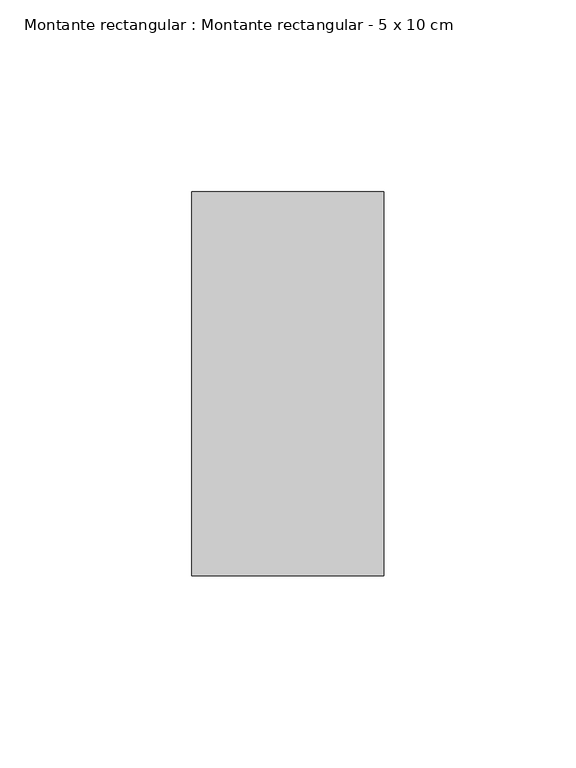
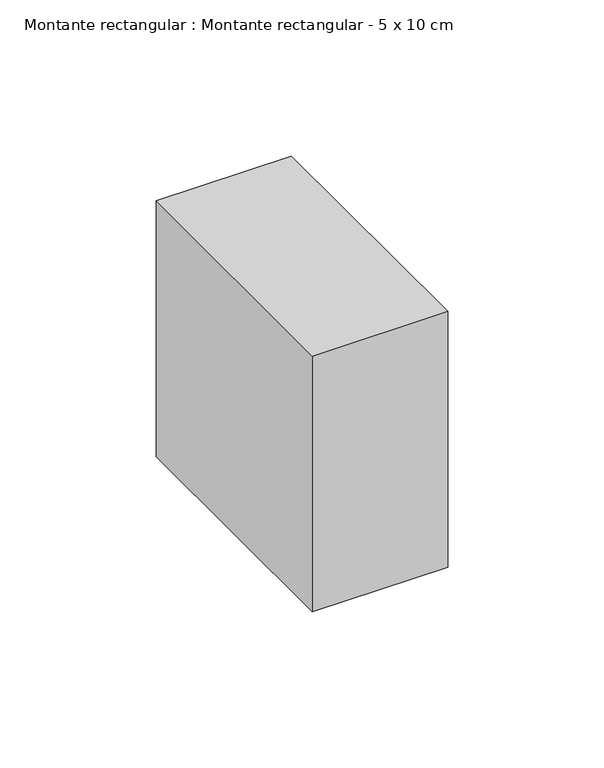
"""IFC4 building model written with IfcOpenShell, lengths in millimetres: member geometry, Montante rectangular : Montante rectangular - 5 x 10 cm."""

import ifcopenshell
import ifcopenshell.guid

model = None  # the IFC model being written
_history = None  # IfcOwnerHistory: only IFC2X3 demands one
_inside = {}  # id of a spatial element -> (the spatial element, [elements in it])
_under = {}  # id of a project, library or spatial element -> (it, [spatial elements below it])
_declared = {}  # id of a project -> (the project, [libraries it declares])
_typed = {}  # id of a type object -> (the type object, [elements of that type])
_made_of = {}  # id of a material, layer set ... -> (it, [elements and type objects made of it])


def new_model(schema):
    """Start an empty IFC model of exactly this schema.

    Asked for "IFC4X3", IfcOpenShell would pick the latest addendum, in which some entities
    have other attributes; the version numbers below select the first issue.
    IFC2X3 requires an IfcOwnerHistory on every rooted entity: one is made here for all.
    """
    global model, _history
    if schema == "IFC4X3":
        model = ifcopenshell.file(schema_version=(4, 3, 0, 0))
    else:
        model = ifcopenshell.file(schema=schema)
    _inside.clear()
    _under.clear()
    _declared.clear()
    _typed.clear()
    _made_of.clear()
    _history = None
    if model.schema == "IFC2X3":
        org = make("IfcOrganization", Name="unknown")
        user = make(
            "IfcPersonAndOrganization",
            ThePerson=make("IfcPerson", FamilyName="unknown"),
            TheOrganization=org,
        )
        app = make(
            "IfcApplication",
            ApplicationDeveloper=org,
            Version="unknown",
            ApplicationFullName="unknown",
            ApplicationIdentifier="unknown",
        )
        _history = make(
            "IfcOwnerHistory",
            OwningUser=user,
            OwningApplication=app,
            ChangeAction="ADDED",
            CreationDate=0,
        )
    return model


def make(cls, **values):
    """One entity of the class cls with the attributes given. An attribute that is None is left unset."""
    return model.create_entity(
        cls, **{name: value for name, value in values.items() if value is not None}
    )


def rooted(cls, **values):
    """An entity with a GlobalId (a new one), such as an element, a storey or a relation."""
    return make(cls, GlobalId=ifcopenshell.guid.new(), OwnerHistory=_history, **values)


def si_unit(unit_type, name, prefix=None):
    """IfcSIUnit, for example si_unit("LENGTHUNIT", "METRE", prefix="MILLI")."""
    return make("IfcSIUnit", UnitType=unit_type, Prefix=prefix, Name=name)


def assignment(units):
    """IfcUnitAssignment: the units of a project."""
    return None if units is None else make("IfcUnitAssignment", Units=units)


def point(xyz):
    """IfcCartesianPoint."""
    return None if xyz is None else make("IfcCartesianPoint", Coordinates=xyz)


def direction(xyz):
    """IfcDirection."""
    return None if xyz is None else make("IfcDirection", DirectionRatios=xyz)


def frame(location, z_axis=None, x_axis=None):
    """IfcAxis2Placement3D, a coordinate frame: its origin and axes. An axis left out is left unset."""
    return make(
        "IfcAxis2Placement3D",
        Location=point(location),
        Axis=direction(z_axis),
        RefDirection=direction(x_axis),
    )


def origin():
    """The frame at (0, 0, 0) with its axes left unset."""
    return frame((0.0, 0.0, 0.0))


def place(relative_to, where):
    """IfcLocalPlacement: puts the frame where relative to a parent placement (None: the world)."""
    return make(
        "IfcLocalPlacement", PlacementRelTo=relative_to, RelativePlacement=where
    )


def context(
    kind, dimensions, precision=None, world=None, true_north=None, identifier=None
):
    """IfcGeometricRepresentationContext, for example the 3D "Model" context."""
    return make(
        "IfcGeometricRepresentationContext",
        ContextIdentifier=identifier,
        ContextType=kind,
        CoordinateSpaceDimension=dimensions,
        Precision=precision,
        WorldCoordinateSystem=world,
        TrueNorth=true_north,
    )


def project(units=None, contexts=None):
    """IfcProject with its units and contexts."""
    return rooted(
        "IfcProject",
        Name="project",
        RepresentationContexts=contexts,
        UnitsInContext=assignment(units),
    )


def spatial(cls, under=None, at=None, **own):
    """A site, building, storey or space (cls), placed at a placement, below another one or the project."""
    s = rooted(cls, ObjectPlacement=at, **own)
    if under is not None:
        _under.setdefault(under.id(), (under, []))[1].append(s)
    return s


def polyline(points):
    """IfcPolyline through the points."""
    return make("IfcPolyline", Points=[point(p) for p in points])


def outline(outer, holes=None, kind="AREA"):
    """IfcArbitraryClosedProfileDef: a profile drawn as a closed curve; with holes, ...WithVoids."""
    if holes is None:
        return make("IfcArbitraryClosedProfileDef", ProfileType=kind, OuterCurve=outer)
    return make(
        "IfcArbitraryProfileDefWithVoids",
        ProfileType=kind,
        OuterCurve=outer,
        InnerCurves=holes,
    )


def extrude(swept, where, along, depth):
    """IfcExtrudedAreaSolid: the profile swept, set in the frame where, extruded along a direction by depth."""
    return make(
        "IfcExtrudedAreaSolid",
        SweptArea=swept,
        Position=where,
        ExtrudedDirection=direction(along),
        Depth=depth,
    )


def shape(context_of_items, identifier, shape_type, items):
    """IfcShapeRepresentation: the items that make up one representation, for example the "Body"."""
    return make(
        "IfcShapeRepresentation",
        ContextOfItems=context_of_items,
        RepresentationIdentifier=identifier,
        RepresentationType=shape_type,
        Items=items,
    )


def source(mapping_origin, context_of_items, identifier, shape_type, items):
    """IfcRepresentationMap: a shape defined once, which mapped items show again and again."""
    return make(
        "IfcRepresentationMap",
        MappingOrigin=mapping_origin,
        MappedRepresentation=shape(context_of_items, identifier, shape_type, items),
    )


def transform(
    local_origin,
    x_axis=None,
    y_axis=None,
    z_axis=None,
    scale=None,
    scale2=None,
    scale3=None,
    uniform=True,
):
    """IfcCartesianTransformationOperator3D, or its non-uniform kind. x_axis, y_axis, z_axis: its Axis1, 2, 3."""
    if uniform:
        return make(
            "IfcCartesianTransformationOperator3D",
            Axis1=direction(x_axis),
            Axis2=direction(y_axis),
            LocalOrigin=point(local_origin),
            Scale=scale,
            Axis3=direction(z_axis),
        )
    return make(
        "IfcCartesianTransformationOperator3DnonUniform",
        Axis1=direction(x_axis),
        Axis2=direction(y_axis),
        LocalOrigin=point(local_origin),
        Scale=scale,
        Axis3=direction(z_axis),
        Scale2=scale2,
        Scale3=scale3,
    )


def mapped(mapping_source, mapping_target):
    """IfcMappedItem: shows the shape of a source again, moved by a transform."""
    return make(
        "IfcMappedItem", MappingSource=mapping_source, MappingTarget=mapping_target
    )


def made_of(thing, what):
    """Note that an element or type object is made of a material, layer set ...; save() writes the relation."""
    if what is not None:
        _made_of.setdefault(what.id(), (what, []))[1].append(thing)
    return thing


def element(
    cls,
    number,
    at=None,
    inside=None,
    cuts=None,
    type_object=None,
    material=None,
    context=None,
    identifier="Body",
    shape_type=None,
    held_by="IfcProductDefinitionShape",
    body=None,
    shapes=None,
    **own,
):
    """One element of the class cls, such as IfcWall. Its Tag is "e" and its number.

    at: its placement. inside: the storey or other place that contains it. cuts: it is an
    opening in that element (IfcRelVoidsElement). A single representation is given by context,
    identifier, shape_type and body (its items); several are given by shapes. held_by: the class
    of the entity that holds the representations. save() writes the other relations.
    """
    e = rooted(cls, Tag="e%d" % number, ObjectPlacement=at, **own)
    if body is not None:
        shapes = [shape(context, identifier, shape_type, body)]
    if shapes is not None:
        e.Representation = make(held_by, Representations=shapes)
    if inside is not None:
        _inside.setdefault(inside.id(), (inside, []))[1].append(e)
    if cuts is not None:
        rooted(
            "IfcRelVoidsElement", RelatingBuildingElement=cuts, RelatedOpeningElement=e
        )
    if type_object is not None:
        _typed.setdefault(type_object.id(), (type_object, []))[1].append(e)
    return made_of(e, material)


def aggregate(whole, parts):
    """IfcRelAggregates: a whole, such as a stair, and the parts it consists of."""
    return rooted("IfcRelAggregates", RelatingObject=whole, RelatedObjects=parts)


def save(model, path):
    """Write the relations noted so far, then the file.

    IfcRelAggregates (storeys below a building ...), IfcRelContainedInSpatialStructure (elements
    in a storey), IfcRelDefinesByType, IfcRelAssociatesMaterial and IfcRelDeclares: one each for
    every whole, place, type object, material and project.
    """
    for whole, parts in _under.values():
        aggregate(whole, parts)
    for where, things in _inside.values():
        rooted(
            "IfcRelContainedInSpatialStructure",
            RelatedElements=things,
            RelatingStructure=where,
        )
    for kind, things in _typed.values():
        rooted("IfcRelDefinesByType", RelatedObjects=things, RelatingType=kind)
    for what, things in _made_of.values():
        rooted("IfcRelAssociatesMaterial", RelatedObjects=things, RelatingMaterial=what)
    for by, libraries in _declared.values():
        rooted("IfcRelDeclares", RelatingContext=by, RelatedDefinitions=libraries)
    model.write(path)


def montante_rectangular_montante_rectangular_5_x_10_cm_7ca75b0d(model_context):
    return source(origin(), model_context, "Body", "SweptSolid", [
        extrude(outline(polyline([(25.0, 50.0), (25.0, -50.0), (-25.0, -50.0), (-25.0, 50.0), (25.0, 50.0)])), frame((0.0, 0.0, -100.0), z_axis=(0.0, 0.0, 1.0), x_axis=(1.0, 0.0, 0.0)), (0.0, 0.0, 1.0), 100.0),
    ])


if __name__ == "__main__":
    model = new_model("IFC4")
    model_context = context("Model", 3, world=origin())
    ifc_project = project(units=[si_unit("LENGTHUNIT", "METRE", prefix="MILLI")], contexts=[model_context])
    site = spatial("IfcSite", under=ifc_project)
    building = spatial("IfcBuilding", under=site)
    placement = place(None, origin())
    montante_rectangular_montante_rectangular_5_x_10_cm_shape = montante_rectangular_montante_rectangular_5_x_10_cm_7ca75b0d(model_context)
    element("IfcMember", 1, ObjectType="Montante rectangular : Montante rectangular - 5 x 10 cm", at=placement, inside=building, context=model_context, shape_type="MappedRepresentation", body=[
        mapped(montante_rectangular_montante_rectangular_5_x_10_cm_shape, transform((0.0, 0.0, 0.0), x_axis=(1.0, 0.0, 0.0), y_axis=(0.0, 1.0, 0.0), z_axis=(0.0, 0.0, 1.0))),
    ])
    save(model, "model.ifc")
